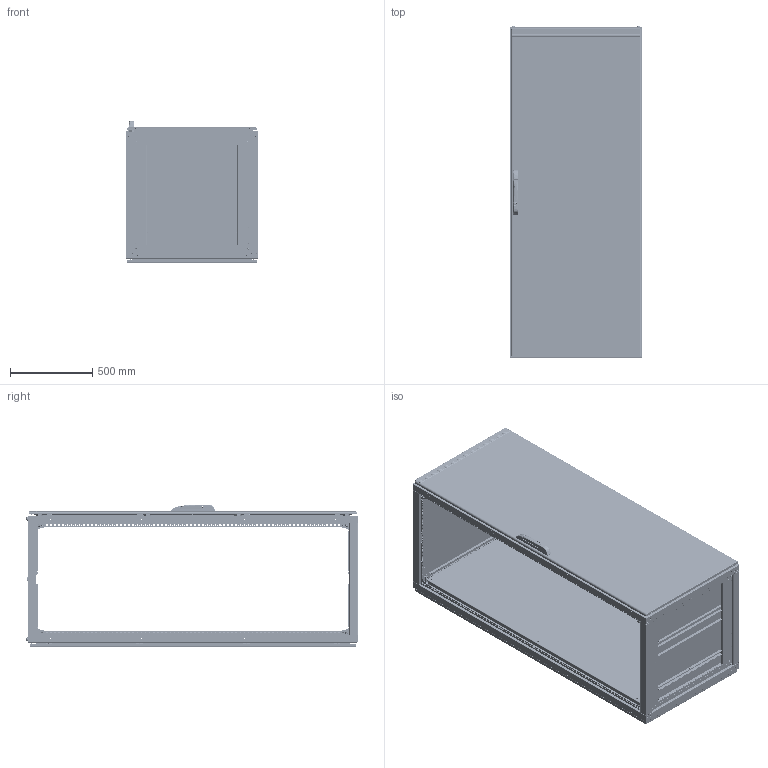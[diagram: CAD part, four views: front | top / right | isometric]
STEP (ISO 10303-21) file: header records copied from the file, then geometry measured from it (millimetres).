
FILE_DESCRIPTION (( 'STEP AP214' ), '1' );
FILE_NAME ('N200808S - 2000 H X 800 W X 800 D - NEO MODULAR.STEP', '2026-09-30T13:49:24', ( '' ), ( '' ), 'SwSTEP 2.0', 'SolidWorks 2025', '' );
FILE_SCHEMA (( 'AUTOMOTIVE_DESIGN' ));
Length unit declared in the file: millimetre
Products named in the file (100): YM 1472; TEOS-NEO MP Right Support Plastic Wedge; N200808S - 2000 H X 800 W X 800 D - NEO MODULAR; epdm contaVER3 NEO26-12; F║ºE G=VDE_; Teos-Neo MP Sağ Braketi; TEOS-NEO MP pin; curved spring lock washer_din_Spring washer DIN 128 - A8; YZE067T__1_1; NEO Base depth Part_PP 16.0097 800; M8 Somun Kafesi_m8; 4X8 POP PERÇİN_4X8; TEOS-NEO MP Right Bracket with pin_25mm; 2751_1_1_schrack; NEO Modular Rear Panel_800x2000; kare rondela somunuVER3 NEO26-12; Mounting Plate bottom wedge screw; lande plastic panel_1_1; M8 KAFES SOMUN_m8; derinlik merdivenliVER3 NEO26-12_PP 16.0018   800; hex nut gradec_iso1_PreviewCfg; Teos - Neo Mounting Plate - 3 mm_PP 12.0103 800x2000; YZE069T__1_1; F║ºE º║FRE_; Teos-Neo Mounting Plate Right Bracket Mounting_Standart Pozisyon; 03-Base Sheet U1 04-2012VER3 NEO26-12_PP 12.0041 -800-75; A910 3126 330; Lock mounting part; derinlik iç köşeVER3 NEO26-12_PP 16.0024 800 D İÇ; Kaldırma Kulagi SomunuVER3 NEO26-12_25x25; MP 11.0195 Mounting Plate M8 Wedge; M6 Plastic Screwholder 2; Front Door Sheet - Neo_PP 16.0504 800x2000; Horızontal Frame with hole_800; NEO Mounting plate sled_PP 16.1239-800; DİKEY PROFİL VER 1 ACIK PROFİLVER3 NEO26-12_PP 16.0014 H 2000; Teos-Neo MP Durdurucu Destek; NEO Modular Top Cover_800x800; M5x10mm YHB Bolt_PreviewCfg_1__1_1; Base sheet slide part_PP 12.0031 - 800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
Assembly tree (275 placements, depth 5):
  N200808S - 2000 H X 800 W X 800 D - NEO MODULAR
    NEO Modular Frame Assembly_800x2000x800
      kasa 2015VER3 NEO26-12_800x2000  x2
        DİKEY PROFİL VER 1 ACIK PROFİLVER3 NEO26-12_PP 16.0014 H 2000
        ust genişlik deliksizVER3 NEO26-19_PP 16.0006 800 GEN.ÜST
        ust genişlik deliksizVER3 NEO26-19_PP 16.0005 800 GEN.ALT
        Kaldırma Kulagi SomunuVER3 NEO26-12_25x25
        hex nut heavy_am_B18.2.4.6M - Heavy hex nut,  M12 x 1.75 --W-N
        MP 0701.0050 M8 SIFIR KAFA PERÇİN SOMUN
      NEO Modular Derinlik_800  x4
        derinlik merdivenliVER3 NEO26-12_PP 16.0018   800
        derinlik iç köşeVER3 NEO26-12_PP 16.0024 800 D İÇ
        epdm contaVER3 NEO26-12
        kare rondela somunuVER3 NEO26-12
        kare rondelaVER3 NEO26-12
        socket head cap screw_am_B18.3.1M - 8 x 1.25 x 20 Hex SHCS -- 20NHX
        curved spring lock washer_din_Spring washer DIN 128 - A8
        4X8 POP PERÇİN
        4X8 POP PERÇİN_4X8
      TEOS-NEO Base sheet metal parts_800x800
        03-Base Sheet U1 04-2012VER3 NEO26-12_PP 12.0041 -800-75
        Base sheet slide part_PP 12.0031 - 800  x2
        03-Base Sheet U1 04-2012VER3 NEO26-12_PP 12.0036 -800-200  x2
      NEO Base Width Part_PP 16.0100 800 GENİŞLİK  x2
      pan head cross recess screw_iso121_ISO 7045 - M5 x 10 - Z --- 10C  x16
      NEO Base depth Part_PP 16.0097 800  x2
      NEO Mounting plate sled_PP 16.1239-800  x2
      4,6 Diameter plug  x2
    NEO Modular Rear Panel_800x2000
      Rear Panel Sheet - Neo_PP 16.0049 800x2000
      countersunk flat head cross recess screw_iso_ISO 7046-1 - M6 x 25 - Z --- 25C  x8
      MP 14.0007 M6 Plastic Countersink  x8
      ARKA KAPAK BRAKETVER3 NEO26-12  x8
      pan head cross recess screw_iso121_ISO 7045 - M5 x 10 - Z --- 10C  x16
    NEO Modular Top Cover_800x800
      Top Cover Sheet_PP 16.0066 800X800 UST KAPAK
      countersunk flat head cross recess screw_iso_ISO 7046-1 - M6 x 25 - Z --- 25C  x2
      MP 14.0007 M6 Plastic Countersink  x2
      plain washer normal grade a_iso_Washer ISO 7089 - 12  x4
      socket button head screw_iso_ISO 7380 - M12 x 30 - 30C  x4
      Top Cover  3mm Stopper  x4
    TEOS-NEO MP Right Bracket with pin_25mm
      TEOS-NEO MP Right Bracket with pin_Klavuzlu
      TEOS-NEO MP pin
      pan head cross recess screw_iso121_ISO 7045 - M5 x 10 - Z --- 10C  x3
    TEOS-NEO MP Left Bracket with pin_25mm
      TEOS-NEO MP Left Bracket with pin_Klavuzlu
      TEOS-NEO MP pin
      pan head cross recess screw_iso121_ISO 7045 - M5 x 10 - Z --- 10C  x3
    Teos-Neo 3mm MOUNTING PLATE_TEOS MP 800x2000
      Teos - Neo Mounting Plate - 3 mm_PP 12.0103 800x2000
      MP 11.0195 Mounting Plate M8 Wedge  x2
      socket head cap screw_am_B18.3.1M - 8 x 1.25 x 35 Hex SHCS -- 35NHX  x2
      Teos-Neo Mounting Plate Right Bracket Mounting_Standart Pozisyon
        Teos-Neo MP Sağ Braketi
        pan head cross recess screw_iso121_ISO 7045 - M5 x 10 - Z --- 10C  x2
        M8 KAFES SOMUN_m8
          M8 Somun Kafesi_m8
          M8 Kare Somun_m8
        Teos-Neo MP Durdurucu
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Bounding box: 800.1 x 2014.6 x 864.99 mm (x, y, z)
Volume: 17051742.1 mm3; surface area: 20367610 mm2
Topology: 345 solids, 345 shells, 31458 faces, 85598 edges, 54629 vertices
Faces by surface type: plane 15368, cylinder 12185, cone 1778, torus 1020, bspline 882, sphere 225
Entity records: 351655 total; most frequent: CARTESIAN_POINT 101036, ORIENTED_EDGE 52600, DIRECTION 49085, EDGE_CURVE 26300, VERTEX_POINT 16890, AXIS2_PLACEMENT_3D 16725, LINE 15635, VECTOR 15635
